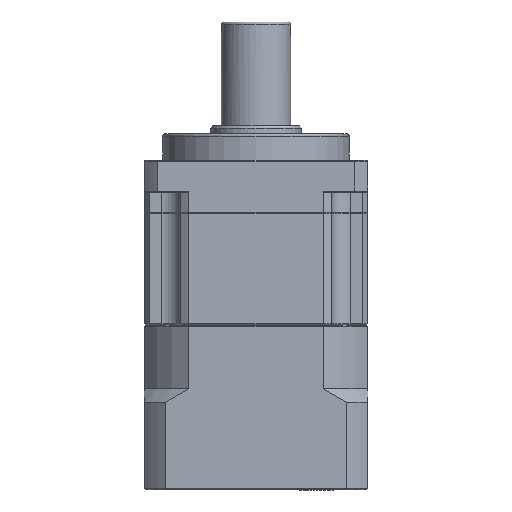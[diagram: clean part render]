
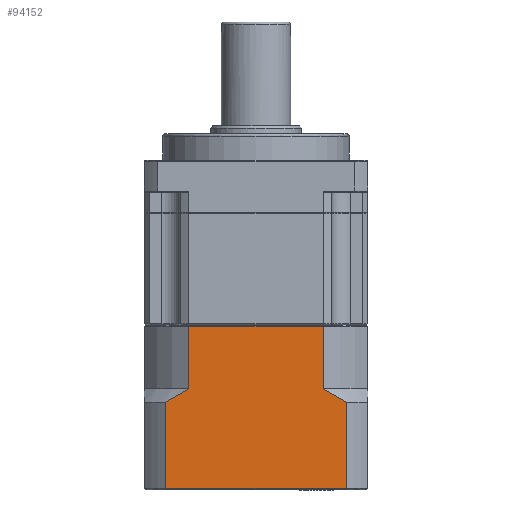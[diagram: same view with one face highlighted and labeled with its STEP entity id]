
A CAD part, front view. The second image highlights one B-rep face of the part: STEP entity #94152.
In plain terms, the highlighted planar face has unit normal (0, -1, 0).
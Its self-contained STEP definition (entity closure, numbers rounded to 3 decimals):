
#1483 = CARTESIAN_POINT ( 'NONE',  ( 16.371, 10.281, 9.197 ) ) ;
#3436 = CARTESIAN_POINT ( 'NONE',  ( 12.342, 10.281, -7.003 ) ) ;
#7681 = LINE ( 'NONE', #66825, #49070 ) ;
#8991 = EDGE_CURVE ( 'NONE', #32397, #99969, #14752, .T. ) ;
#10094 = LINE ( 'NONE', #88135, #87931 ) ;
#12029 = CARTESIAN_POINT ( 'NONE',  ( 50.312, 10.281, -7.003 ) ) ;
#12130 = CARTESIAN_POINT ( 'NONE',  ( 45.961, 10.281, -7.303 ) ) ;
#14244 = EDGE_CURVE ( 'NONE', #94223, #18347, #26395, .T. ) ;
#14752 = B_SPLINE_CURVE_WITH_KNOTS ( 'NONE', 3,
 ( #37537, #45390, #99616, #53210 ),
 .UNSPECIFIED., .F., .F.,
 ( 4, 4 ),
 ( 0., 0.005 ),
 .UNSPECIFIED. ) ;
#15478 = CARTESIAN_POINT ( 'NONE',  ( 12.342, 10.281, 23.497 ) ) ;
#18347 = VERTEX_POINT ( 'NONE', #74453 ) ;
#19739 = VERTEX_POINT ( 'NONE', #26994 ) ;
#19970 = DIRECTION ( 'NONE',  ( 0., 0., -1. ) ) ;
#20323 = CARTESIAN_POINT ( 'NONE',  ( 20.722, 10.281, 11.697 ) ) ;
#23112 = CARTESIAN_POINT ( 'NONE',  ( 19.233, 10.281, 10.93 ) ) ;
#26282 = DIRECTION ( 'NONE',  ( 0., 0., -1. ) ) ;
#26395 = LINE ( 'NONE', #3436, #67733 ) ;
#26994 = CARTESIAN_POINT ( 'NONE',  ( 45.961, 10.281, 23.497 ) ) ;
#31775 = EDGE_CURVE ( 'NONE', #69005, #85508, #93954, .T. ) ;
#32088 = DIRECTION ( 'NONE',  ( 0., 0., 1. ) ) ;
#32397 = VERTEX_POINT ( 'NONE', #74476 ) ;
#32789 = EDGE_LOOP ( 'NONE', ( #83896, #78217, #74624, #83017, #46151, #92254, #67164, #93831 ) ) ;
#34142 = CARTESIAN_POINT ( 'NONE',  ( 12.342, 10.281, -7.303 ) ) ;
#34412 = VECTOR ( 'NONE', #32088, 1000. ) ;
#37537 = CARTESIAN_POINT ( 'NONE',  ( 45.961, 10.281, 11.697 ) ) ;
#37926 = CARTESIAN_POINT ( 'NONE',  ( 20.722, 10.281, 23.497 ) ) ;
#41660 = PLANE ( 'NONE',  #47677 ) ;
#42013 = DIRECTION ( 'NONE',  ( 1., 0., 0. ) ) ;
#42178 = DIRECTION ( 'NONE',  ( -1., 0., 0. ) ) ;
#42647 = EDGE_CURVE ( 'NONE', #18347, #74544, #7681, .T. ) ;
#43971 = B_SPLINE_CURVE_WITH_KNOTS ( 'NONE', 3,
 ( #85371, #77535, #23112, #93066 ),
 .UNSPECIFIED., .F., .F.,
 ( 4, 4 ),
 ( 0., 0.005 ),
 .UNSPECIFIED. ) ;
#45390 = CARTESIAN_POINT ( 'NONE',  ( 47.45, 10.281, 10.93 ) ) ;
#46127 = DIRECTION ( 'NONE',  ( -1., 0., 0. ) ) ;
#46151 = ORIENTED_EDGE ( 'NONE', *, *, #58382, .F. ) ;
#47677 = AXIS2_PLACEMENT_3D ( 'NONE', #34142, #88561, #42013 ) ;
#49070 = VECTOR ( 'NONE', #58101, 1000. ) ;
#49490 = EDGE_CURVE ( 'NONE', #74544, #69005, #43971, .T. ) ;
#49857 = EDGE_CURVE ( 'NONE', #19739, #32397, #82573, .T. ) ;
#51038 = VECTOR ( 'NONE', #46127, 1000. ) ;
#53210 = CARTESIAN_POINT ( 'NONE',  ( 50.312, 10.281, 9.197 ) ) ;
#53625 = FACE_OUTER_BOUND ( 'NONE', #32789, .T. ) ;
#58101 = DIRECTION ( 'NONE',  ( 0., 0., 1. ) ) ;
#58382 = EDGE_CURVE ( 'NONE', #99969, #94223, #10094, .T. ) ;
#61886 = VECTOR ( 'NONE', #19970, 1000. ) ;
#66825 = CARTESIAN_POINT ( 'NONE',  ( 16.371, 10.281, -7.303 ) ) ;
#67164 = ORIENTED_EDGE ( 'NONE', *, *, #49857, .F. ) ;
#67733 = VECTOR ( 'NONE', #42178, 1000. ) ;
#69005 = VERTEX_POINT ( 'NONE', #20323 ) ;
#71691 = LINE ( 'NONE', #15478, #51038 ) ;
#74414 = EDGE_CURVE ( 'NONE', #19739, #85508, #71691, .T. ) ;
#74453 = CARTESIAN_POINT ( 'NONE',  ( 16.371, 10.281, -7.003 ) ) ;
#74476 = CARTESIAN_POINT ( 'NONE',  ( 45.961, 10.281, 11.697 ) ) ;
#74544 = VERTEX_POINT ( 'NONE', #1483 ) ;
#74624 = ORIENTED_EDGE ( 'NONE', *, *, #42647, .F. ) ;
#77535 = CARTESIAN_POINT ( 'NONE',  ( 17.788, 10.281, 10.088 ) ) ;
#78217 = ORIENTED_EDGE ( 'NONE', *, *, #49490, .F. ) ;
#78731 = CARTESIAN_POINT ( 'NONE',  ( 20.722, 10.281, 11.697 ) ) ;
#82573 = LINE ( 'NONE', #12130, #61886 ) ;
#83017 = ORIENTED_EDGE ( 'NONE', *, *, #14244, .F. ) ;
#83896 = ORIENTED_EDGE ( 'NONE', *, *, #31775, .F. ) ;
#85371 = CARTESIAN_POINT ( 'NONE',  ( 16.371, 10.281, 9.197 ) ) ;
#85508 = VERTEX_POINT ( 'NONE', #37926 ) ;
#87931 = VECTOR ( 'NONE', #26282, 1000. ) ;
#88135 = CARTESIAN_POINT ( 'NONE',  ( 50.312, 10.281, -7.303 ) ) ;
#88561 = DIRECTION ( 'NONE',  ( 0., 1., 0. ) ) ;
#91706 = CARTESIAN_POINT ( 'NONE',  ( 50.312, 10.281, 9.197 ) ) ;
#92254 = ORIENTED_EDGE ( 'NONE', *, *, #8991, .F. ) ;
#93066 = CARTESIAN_POINT ( 'NONE',  ( 20.722, 10.281, 11.697 ) ) ;
#93831 = ORIENTED_EDGE ( 'NONE', *, *, #74414, .T. ) ;
#93954 = LINE ( 'NONE', #78731, #34412 ) ;
#94152 = ADVANCED_FACE ( 'NONE', ( #53625 ), #41660, .F. ) ;
#94223 = VERTEX_POINT ( 'NONE', #12029 ) ;
#99616 = CARTESIAN_POINT ( 'NONE',  ( 48.895, 10.281, 10.088 ) ) ;
#99969 = VERTEX_POINT ( 'NONE', #91706 ) ;
